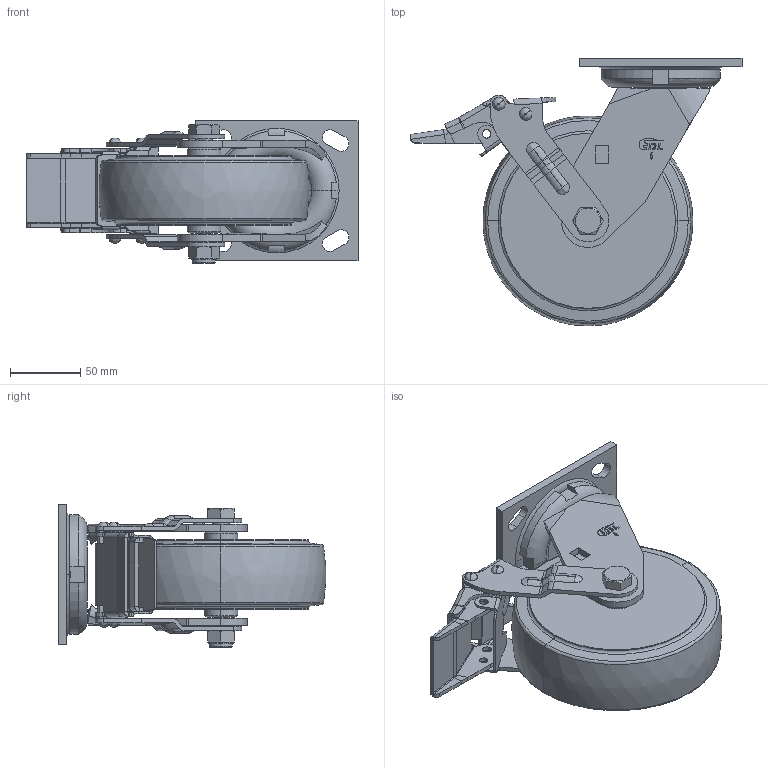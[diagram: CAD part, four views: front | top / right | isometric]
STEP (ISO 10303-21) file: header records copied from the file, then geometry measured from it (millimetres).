
FILE_DESCRIPTION((''),'2;1');
FILE_NAME('73126E-736-86_ASM','2020-12-01T',('lenovo'),(''),'PRO/ENGINEER BY PARAMETRIC TECHNOLOGY CORPORATION, 2010280','PRO/ENGINEER BY PARAMETRIC TECHNOLOGY CORPORATION, 2010280','');
FILE_SCHEMA(('CONFIG_CONTROL_DESIGN'));
Length unit declared in the file: millimetre
Products named in the file (13): 7310-201; 7310-211; 7316-353; 7316-311_ASM; 7316-535; 700-142; 700E-13_; 700-141; 736EE_ASM; 736-86; 7010-33-1; 7010-34; 73126E-736-86_ASM
Assembly tree (12 placements, depth 3):
  73126E-736-86_ASM
    7310-201
    7316-311_ASM
      7310-211
      7316-353
    736EE_ASM
      7316-535
      700-142
      700E-13_
      700-141
    736-86
    7010-33-1
    7010-34
Bounding box: 237.09 x 190.83 x 102 mm (x, y, z)
Volume: 1101188 mm3; surface area: 178009.5 mm2
Topology: 11 solids, 11 shells, 695 faces, 1697 edges, 1042 vertices
Faces by surface type: plane 331, cylinder 210, torus 66, bspline 66, cone 22
Entity records: 23097 total; most frequent: CARTESIAN_POINT 6468, DIRECTION 3441, ORIENTED_EDGE 3394, EDGE_CURVE 1697, AXIS2_PLACEMENT_3D 1224, VERTEX_POINT 1042, VECTOR 993, LINE 993
